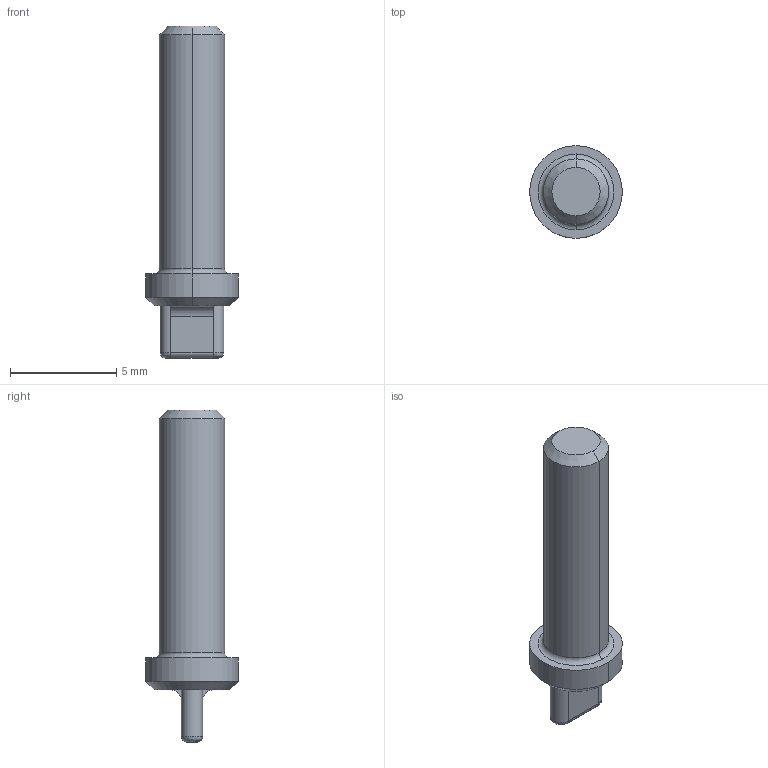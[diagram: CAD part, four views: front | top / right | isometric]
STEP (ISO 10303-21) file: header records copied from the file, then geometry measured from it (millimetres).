
FILE_DESCRIPTION((''),'2;1');
FILE_NAME('C-776363-1','2008-09-17T',('workeradm'),('Tyco Electronics Corporation'),'PRO/ENGINEER BY PARAMETRIC TECHNOLOGY CORPORATION, 2005450','PRO/ENGINEER BY PARAMETRIC TECHNOLOGY CORPORATION, 2005450','');
FILE_SCHEMA(('CONFIG_CONTROL_DESIGN', 'GEOMETRIC_VALIDATION_PROPERTIES_MIM'));
Length unit declared in the file: millimetre
Products named in the file (1): C-776363-1
Bounding box: 4.35 x 4.35 x 15.6 mm (x, y, z)
Volume: 113.9 mm3; surface area: 171.8 mm2
Topology: 1 solids, 1 shells, 28 faces, 58 edges, 34 vertices
Faces by surface type: plane 10, cylinder 10, cone 4, torus 2, bspline 2
Entity records: 915 total; most frequent: CARTESIAN_POINT 175, DIRECTION 140, ORIENTED_EDGE 116, COLOUR_RGB 64, EDGE_CURVE 58, AXIS2_PLACEMENT_3D 56, VERTEX_POINT 34, EDGE_LOOP 30
